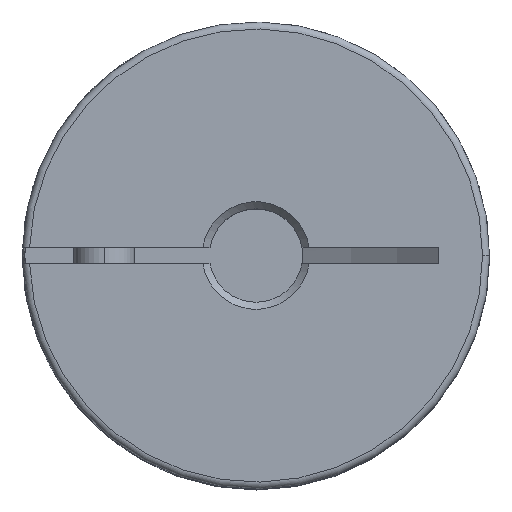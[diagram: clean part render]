
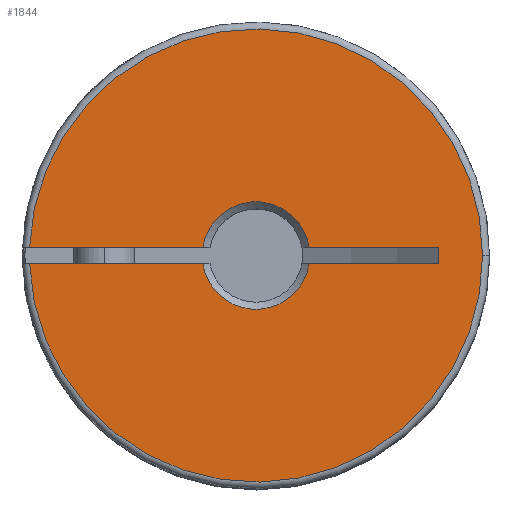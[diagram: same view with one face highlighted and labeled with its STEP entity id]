
A CAD part, top view. The second image highlights one B-rep face of the part: STEP entity #1844.
In plain terms, the highlighted planar face has unit normal (0, 0, 1).
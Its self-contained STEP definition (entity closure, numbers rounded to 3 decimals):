
#42 = VECTOR ( 'NONE', #3323, 1000. ) ;
#54 = AXIS2_PLACEMENT_3D ( 'NONE', #3305, #3306, #3307 ) ;
#66 = VECTOR ( 'NONE', #3326, 1000. ) ;
#80 = VECTOR ( 'NONE', #3317, 1000. ) ;
#104 = VECTOR ( 'NONE', #3311, 1000. ) ;
#166 = AXIS2_PLACEMENT_3D ( 'NONE', #3308, #3312, #3313 ) ;
#175 = VECTOR ( 'NONE', #3320, 1000. ) ;
#176 = AXIS2_PLACEMENT_3D ( 'NONE', #3314, #3327, #3328 ) ;
#480 = FACE_OUTER_BOUND ( 'NONE', #6106, .T. ) ;
#484 = AXIS2_PLACEMENT_3D ( 'NONE', #4016, #4017, #4018 ) ;
#852 = AXIS2_PLACEMENT_3D ( 'NONE', #2426, #2433, #2434 ) ;
#1675 = EDGE_CURVE ( 'NONE', #5957, #5824, #1924, .T. ) ;
#1676 = EDGE_CURVE ( 'NONE', #5956, #5957, #3309, .T. ) ;
#1677 = EDGE_CURVE ( 'NONE', #5955, #5956, #1925, .T. ) ;
#1678 = EDGE_CURVE ( 'NONE', #5954, #5955, #3315, .T. ) ;
#1679 = EDGE_CURVE ( 'NONE', #5953, #5954, #3318, .T. ) ;
#1680 = EDGE_CURVE ( 'NONE', #5953, #5952, #3321, .T. ) ;
#1681 = EDGE_CURVE ( 'NONE', #5951, #5825, #3324, .T. ) ;
#1682 = EDGE_CURVE ( 'NONE', #5951, #5952, #1926, .T. ) ;
#1844 = ADVANCED_FACE ( 'NONE', ( #480 ), #4015, .F. ) ;
#1924 = CIRCLE ( 'NONE', #54, 9.7 ) ;
#1925 = CIRCLE ( 'NONE', #166, 2.3 ) ;
#1926 = CIRCLE ( 'NONE', #176, 2.3 ) ;
#2069 = CIRCLE ( 'NONE', #852, 9.7 ) ;
#2426 = CARTESIAN_POINT ( 'NONE',  ( 0., 0., 10.95 ) ) ;
#2433 = DIRECTION ( 'NONE',  ( 0., 0., 1. ) ) ;
#2434 = DIRECTION ( 'NONE',  ( 1., 0., 0. ) ) ;
#3305 = CARTESIAN_POINT ( 'NONE',  ( 0., 0., 10.95 ) ) ;
#3306 = DIRECTION ( 'NONE',  ( 0., 0., 1. ) ) ;
#3307 = DIRECTION ( 'NONE',  ( 1., 0., 0. ) ) ;
#3308 = CARTESIAN_POINT ( 'NONE',  ( 0., 0., 10.95 ) ) ;
#3309 = LINE ( 'NONE', #3310, #104 ) ;
#3310 = CARTESIAN_POINT ( 'NONE',  ( 7.8, -0.35, 10.95 ) ) ;
#3311 = DIRECTION ( 'NONE',  ( -1., 0., 0. ) ) ;
#3312 = DIRECTION ( 'NONE',  ( 0., 0., -1. ) ) ;
#3313 = DIRECTION ( 'NONE',  ( -1., 0., 0. ) ) ;
#3314 = CARTESIAN_POINT ( 'NONE',  ( 0., 0., 10.95 ) ) ;
#3315 = LINE ( 'NONE', #3316, #80 ) ;
#3316 = CARTESIAN_POINT ( 'NONE',  ( 7.8, -0.35, 10.95 ) ) ;
#3317 = DIRECTION ( 'NONE',  ( -1., 0., 0. ) ) ;
#3318 = LINE ( 'NONE', #3319, #175 ) ;
#3319 = CARTESIAN_POINT ( 'NONE',  ( 7.8, 0.35, 10.95 ) ) ;
#3320 = DIRECTION ( 'NONE',  ( 0., -1., 0. ) ) ;
#3321 = LINE ( 'NONE', #3322, #42 ) ;
#3322 = CARTESIAN_POINT ( 'NONE',  ( 7.8, 0.35, 10.95 ) ) ;
#3323 = DIRECTION ( 'NONE',  ( -1., 0., 0. ) ) ;
#3324 = LINE ( 'NONE', #3325, #66 ) ;
#3325 = CARTESIAN_POINT ( 'NONE',  ( 7.8, 0.35, 10.95 ) ) ;
#3326 = DIRECTION ( 'NONE',  ( -1., 0., 0. ) ) ;
#3327 = DIRECTION ( 'NONE',  ( 0., 0., -1. ) ) ;
#3328 = DIRECTION ( 'NONE',  ( -1., 0., 0. ) ) ;
#4015 = PLANE ( 'NONE',  #484 ) ;
#4016 = CARTESIAN_POINT ( 'NONE',  ( 0., 0., 10.95 ) ) ;
#4017 = DIRECTION ( 'NONE',  ( 0., 0., -1. ) ) ;
#4018 = DIRECTION ( 'NONE',  ( 1., 0., 0. ) ) ;
#4185 = CARTESIAN_POINT ( 'NONE',  ( 9.7, 0., 10.95 ) ) ;
#4186 = CARTESIAN_POINT ( 'NONE',  ( -9.694, 0.35, 10.95 ) ) ;
#4312 = CARTESIAN_POINT ( 'NONE',  ( -2.273, 0.35, 10.95 ) ) ;
#4313 = CARTESIAN_POINT ( 'NONE',  ( 2.273, 0.35, 10.95 ) ) ;
#4314 = CARTESIAN_POINT ( 'NONE',  ( 7.8, 0.35, 10.95 ) ) ;
#4315 = CARTESIAN_POINT ( 'NONE',  ( 7.8, -0.35, 10.95 ) ) ;
#4316 = CARTESIAN_POINT ( 'NONE',  ( 2.273, -0.35, 10.95 ) ) ;
#4317 = CARTESIAN_POINT ( 'NONE',  ( -2.273, -0.35, 10.95 ) ) ;
#4318 = CARTESIAN_POINT ( 'NONE',  ( -9.694, -0.35, 10.95 ) ) ;
#5598 = ORIENTED_EDGE ( 'NONE', *, *, #6553, .T. ) ;
#5599 = ORIENTED_EDGE ( 'NONE', *, *, #1675, .T. ) ;
#5600 = ORIENTED_EDGE ( 'NONE', *, *, #1676, .T. ) ;
#5601 = ORIENTED_EDGE ( 'NONE', *, *, #1677, .T. ) ;
#5602 = ORIENTED_EDGE ( 'NONE', *, *, #1678, .T. ) ;
#5603 = ORIENTED_EDGE ( 'NONE', *, *, #1679, .T. ) ;
#5604 = ORIENTED_EDGE ( 'NONE', *, *, #1682, .T. ) ;
#5605 = ORIENTED_EDGE ( 'NONE', *, *, #1680, .F. ) ;
#5606 = ORIENTED_EDGE ( 'NONE', *, *, #1681, .F. ) ;
#5824 = VERTEX_POINT ( 'NONE', #4185 ) ;
#5825 = VERTEX_POINT ( 'NONE', #4186 ) ;
#5951 = VERTEX_POINT ( 'NONE', #4312 ) ;
#5952 = VERTEX_POINT ( 'NONE', #4313 ) ;
#5953 = VERTEX_POINT ( 'NONE', #4314 ) ;
#5954 = VERTEX_POINT ( 'NONE', #4315 ) ;
#5955 = VERTEX_POINT ( 'NONE', #4316 ) ;
#5956 = VERTEX_POINT ( 'NONE', #4317 ) ;
#5957 = VERTEX_POINT ( 'NONE', #4318 ) ;
#6106 = EDGE_LOOP ( 'NONE', ( #5606, #5604, #5605, #5603, #5602, #5601, #5600, #5599, #5598 ) ) ;
#6553 = EDGE_CURVE ( 'NONE', #5824, #5825, #2069, .T. ) ;
